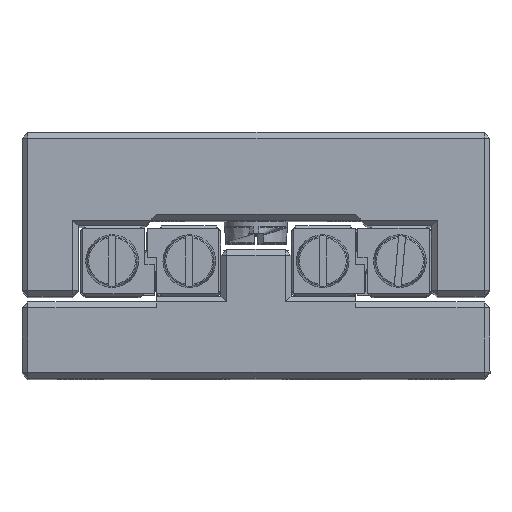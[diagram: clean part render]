
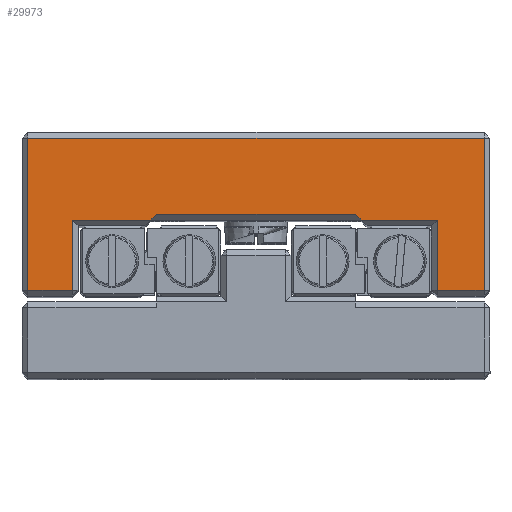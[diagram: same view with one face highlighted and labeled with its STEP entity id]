
A CAD part, top view. The second image highlights one B-rep face of the part: STEP entity #29973.
In plain terms, the highlighted planar face has unit normal (0, 0, 1).
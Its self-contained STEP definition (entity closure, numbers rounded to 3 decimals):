
#1899=PLANE('',#32394);
#3598=FACE_OUTER_BOUND('',#5419,.T.);
#5419=EDGE_LOOP('',(#25533,#25534,#25535,#25536,#25537,#25538,#25539,#25540,
#25541,#25542,#25543,#25544));
#7888=LINE('',#49397,#10541);
#7904=LINE('',#49423,#10557);
#7915=LINE('',#49440,#10568);
#7918=LINE('',#49445,#10571);
#7922=LINE('',#49454,#10575);
#7925=LINE('',#49463,#10578);
#7926=LINE('',#49469,#10579);
#7930=LINE('',#49479,#10583);
#7940=LINE('',#49503,#10593);
#7942=LINE('',#49507,#10595);
#7943=LINE('',#49508,#10596);
#7944=LINE('',#49509,#10597);
#10541=VECTOR('',#38832,10.);
#10557=VECTOR('',#38858,10.);
#10568=VECTOR('',#38877,10.);
#10571=VECTOR('',#38882,10.);
#10575=VECTOR('',#38894,10.);
#10578=VECTOR('',#38907,10.);
#10579=VECTOR('',#38916,10.);
#10583=VECTOR('',#38926,10.);
#10593=VECTOR('',#38946,10.);
#10595=VECTOR('',#38950,10.);
#10596=VECTOR('',#38951,10.);
#10597=VECTOR('',#38952,10.);
#14192=VERTEX_POINT('',#49394);
#14193=VERTEX_POINT('',#49396);
#14198=VERTEX_POINT('',#49421);
#14200=VERTEX_POINT('',#49438);
#14201=VERTEX_POINT('',#49443);
#14202=VERTEX_POINT('',#49452);
#14203=VERTEX_POINT('',#49461);
#14204=VERTEX_POINT('',#49468);
#14206=VERTEX_POINT('',#49476);
#14207=VERTEX_POINT('',#49478);
#14216=VERTEX_POINT('',#49501);
#14217=VERTEX_POINT('',#49506);
#18072=EDGE_CURVE('',#14192,#14193,#7888,.T.);
#18088=EDGE_CURVE('',#14198,#14192,#7904,.T.);
#18099=EDGE_CURVE('',#14200,#14198,#7915,.T.);
#18102=EDGE_CURVE('',#14201,#14200,#7918,.T.);
#18106=EDGE_CURVE('',#14202,#14201,#7922,.T.);
#18109=EDGE_CURVE('',#14203,#14202,#7925,.T.);
#18110=EDGE_CURVE('',#14204,#14203,#7926,.T.);
#18114=EDGE_CURVE('',#14206,#14207,#7930,.T.);
#18126=EDGE_CURVE('',#14216,#14204,#7940,.T.);
#18128=EDGE_CURVE('',#14193,#14217,#7942,.T.);
#18129=EDGE_CURVE('',#14207,#14216,#7943,.T.);
#18130=EDGE_CURVE('',#14217,#14206,#7944,.T.);
#25533=ORIENTED_EDGE('',*,*,#18128,.F.);
#25534=ORIENTED_EDGE('',*,*,#18072,.F.);
#25535=ORIENTED_EDGE('',*,*,#18088,.F.);
#25536=ORIENTED_EDGE('',*,*,#18099,.F.);
#25537=ORIENTED_EDGE('',*,*,#18102,.F.);
#25538=ORIENTED_EDGE('',*,*,#18106,.F.);
#25539=ORIENTED_EDGE('',*,*,#18109,.F.);
#25540=ORIENTED_EDGE('',*,*,#18110,.F.);
#25541=ORIENTED_EDGE('',*,*,#18126,.F.);
#25542=ORIENTED_EDGE('',*,*,#18129,.F.);
#25543=ORIENTED_EDGE('',*,*,#18114,.F.);
#25544=ORIENTED_EDGE('',*,*,#18130,.F.);
#29973=ADVANCED_FACE('',(#3598),#1899,.F.);
#32394=AXIS2_PLACEMENT_3D('',#49505,#38948,#38949);
#38832=DIRECTION('',(0.,1.,0.));
#38858=DIRECTION('',(-1.,0.,0.));
#38877=DIRECTION('',(0.,-1.,0.));
#38882=DIRECTION('',(1.,0.,0.));
#38894=DIRECTION('',(0.,1.,0.));
#38907=DIRECTION('',(-1.,0.,0.));
#38916=DIRECTION('',(0.,-1.,0.));
#38926=DIRECTION('',(-1.,0.,0.));
#38946=DIRECTION('',(-1.,0.,0.));
#38948=DIRECTION('center_axis',(0.,0.,
-1.));
#38949=DIRECTION('ref_axis',(-1.,0.,0.));
#38950=DIRECTION('',(-1.,0.,0.));
#38951=DIRECTION('',(-0.707,-0.707,0.));
#38952=DIRECTION('',(-0.707,0.707,0.));
#49394=CARTESIAN_POINT('',(-18.197,7.5,35.));
#49396=CARTESIAN_POINT('',(-18.197,13.5,35.));
#49397=CARTESIAN_POINT('',(-18.197,10.5,35.));
#49421=CARTESIAN_POINT('',(-14.197,7.5,35.));
#49423=CARTESIAN_POINT('',(-23.697,7.5,35.));
#49438=CARTESIAN_POINT('',(-14.197,20.5,35.));
#49440=CARTESIAN_POINT('',(-14.197,17.5,35.));
#49443=CARTESIAN_POINT('',(-53.197,20.5,35.));
#49445=CARTESIAN_POINT('',(-43.697,20.5,35.));
#49452=CARTESIAN_POINT('',(-53.197,7.5,35.));
#49454=CARTESIAN_POINT('',(-53.197,10.5,35.));
#49461=CARTESIAN_POINT('',(-49.397,7.5,35.));
#49463=CARTESIAN_POINT('',(-41.297,7.5,35.));
#49468=CARTESIAN_POINT('',(-49.397,13.5,35.));
#49469=CARTESIAN_POINT('',(-49.397,13.5,35.));
#49476=CARTESIAN_POINT('',(-25.197,14.,35.));
#49478=CARTESIAN_POINT('',(-42.197,14.,35.));
#49479=CARTESIAN_POINT('',(-29.197,14.,35.));
#49501=CARTESIAN_POINT('',(-42.697,13.5,35.));
#49503=CARTESIAN_POINT('',(-38.447,13.5,35.));
#49505=CARTESIAN_POINT('Origin',(-33.697,14.,35.));
#49506=CARTESIAN_POINT('',(-24.697,13.5,35.));
#49507=CARTESIAN_POINT('',(-26.197,13.5,35.));
#49508=CARTESIAN_POINT('',(-42.697,13.5,35.));
#49509=CARTESIAN_POINT('',(-24.197,13.,35.));
